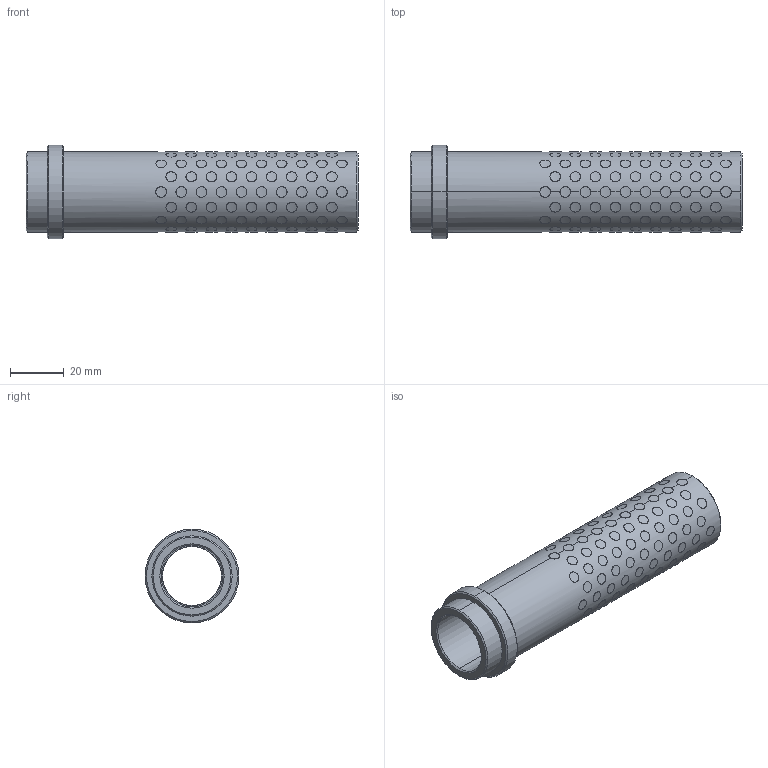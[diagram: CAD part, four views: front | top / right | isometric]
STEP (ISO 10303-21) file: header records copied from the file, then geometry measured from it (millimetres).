
FILE_DESCRIPTION((''),'2;1');
FILE_NAME('G31222116','2017-12-30T',('MANU'),(''),'PRO/ENGINEER BY PARAMETRIC TECHNOLOGY CORPORATION, 2012130','PRO/ENGINEER BY PARAMETRIC TECHNOLOGY CORPORATION, 2012130','');
FILE_SCHEMA(('CONFIG_CONTROL_DESIGN'));
Products named in the file (1): G31222116
Bounding box: 124 x 35 x 35 mm (x, y, z)
Volume: 40160.2 mm3; surface area: 36679.9 mm2
Topology: 153 solids, 153 shells, 939 faces, 1998 edges, 1328 vertices
Faces by surface type: cylinder 922, cone 12, plane 5
Entity records: 46736 total; most frequent: CARTESIAN_POINT 28519, ORIENTED_EDGE 3996, DIRECTION 2612, EDGE_CURVE 1998, VERTEX_POINT 1328, B_SPLINE_CURVE_WITH_KNOTS 1296, EDGE_LOOP 1208, AXIS2_PLACEMENT_3D 971
